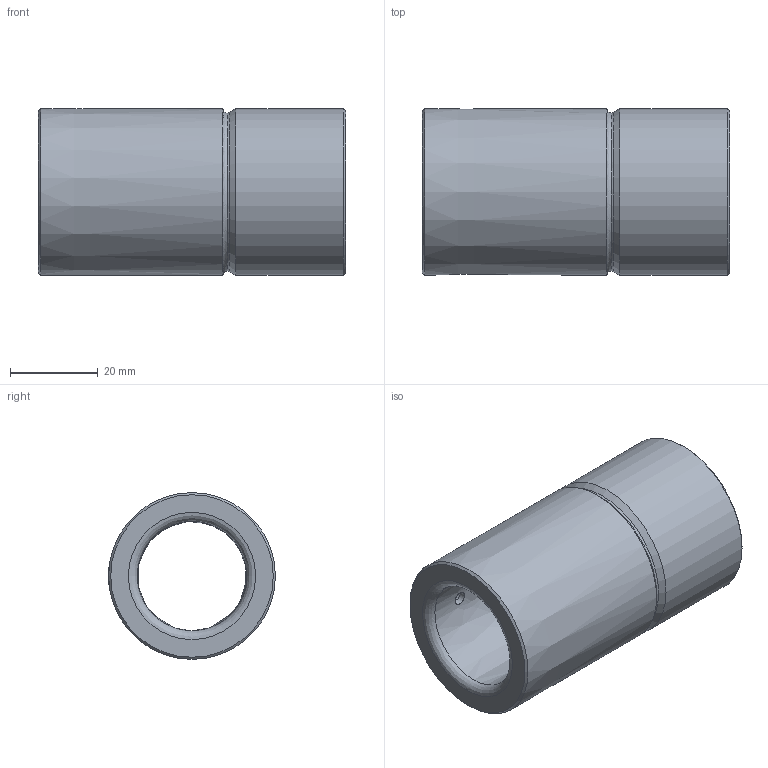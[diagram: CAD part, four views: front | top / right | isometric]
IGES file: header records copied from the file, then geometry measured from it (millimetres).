
Start section: Data from Parasolid IGES Translator 20.0.26, Copyright(c) 2006 Siemens P LM Software. All Rights Reserved.
Global section: file name: WZ 4068 25 x 70.igs; native system: By Siemens PLM Incorporated; preprocessor: XPlus GENERIC/IGES 20.0.26; author: Noname; organization: Noname; date: 20201121.205941; units: millimetre
Bounding box: 70 x 38.04 x 38.04 mm (x, y, z)
Surface area: 15354.2 mm2 (no closed solid volume)
Topology: 0 solids, 0 shells, 17 faces, 64 edges, 45 vertices
Faces by surface type: revolution 13, extrusion 4
